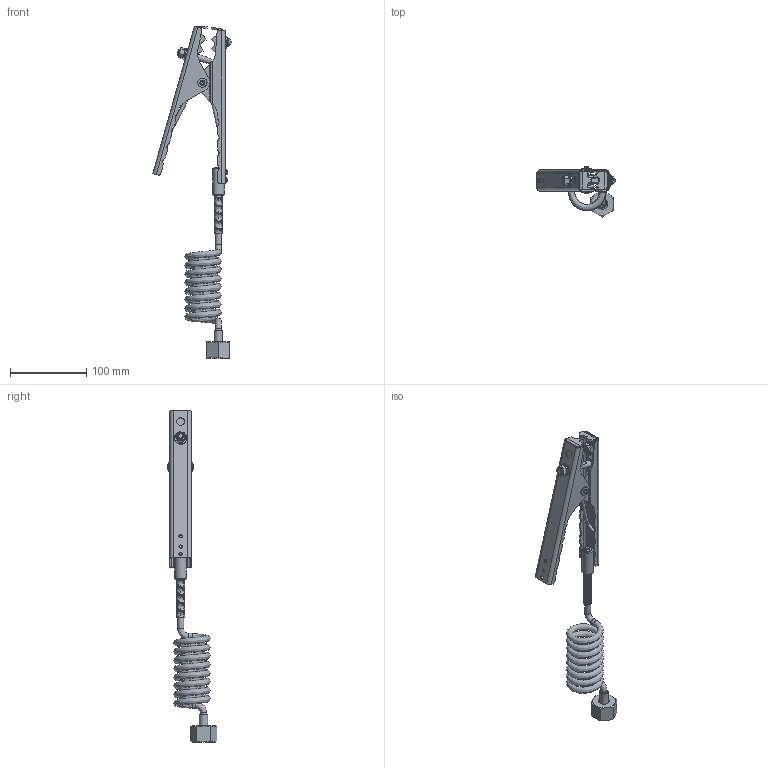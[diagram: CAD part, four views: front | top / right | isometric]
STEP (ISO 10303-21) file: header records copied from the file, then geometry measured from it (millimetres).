
FILE_DESCRIPTION(('STEP AP214'), '1');
FILE_NAME('Ñïèðàëü è ÇÑÒ', '', ('UNSPECIFIED'), ('UNSPECIFIED'), 'ASCON STEP Converter 1.6', 'ASCON Math Kernel', '');
FILE_SCHEMA(('AUTOMOTIVE_DESIGN { 1 0 10303 214 3 1 1}'));
Length unit declared in the file: millimetre
Products named in the file (36): СЕНС.; СЕНС.753713.011-01; СЕНС.753552.002; СЕНС.754140.144; СЕНС.711111.078; СЕНС.745311.001; СЕНС.753713.011; СЕНС.711321.017; СЕНС.305311.006СБ; СЕНС.711361.016; СЕНС.753513.093; СЕНС.716341.001; СЕНС.713341.047; СЕНС.713161.077
Assembly tree (38 placements, depth 4):
  (unnamed)
    (unnamed)
    СЕНС.
      СЕНС.753713.011-01
      (unnamed)
      (unnamed)
      СЕНС.753552.002
      СЕНС.754140.144
      (unnamed)
      (unnamed)  x2
      (unnamed)
      (unnamed)
      (unnamed)
      СЕНС.711111.078
      (unnamed)
      (unnamed)
      (unnamed)
      (unnamed)
      (unnamed)
      (unnamed)
      (unnamed)
      (unnamed)
      СЕНС.745311.001
      (unnamed)
      СЕНС.753713.011
      СЕНС.711321.017
      СЕНС.305311.006СБ
        СЕНС.711361.016
        СЕНС.753513.093
      СЕНС.716341.001
      (unnamed)  x2
      (unnamed)  x2
      (unnamed)
    СЕНС.713341.047
    СЕНС.716341.001
    СЕНС.713161.077
Bounding box: 102.32 x 64.9 x 434.17 mm (x, y, z)
Volume: 122054.1 mm3; surface area: 110399.7 mm2
Topology: 38 solids, 38 shells, 656 faces, 1460 edges, 895 vertices
Faces by surface type: plane 313, cylinder 190, bspline 91, cone 54, torus 5, sphere 3
Full cylindrical faces by diameter (mm): 1.5 x2, 2.5 x2, 3.242 x3, 4 x7, 4.3 x2, 4.5 x10, 4.917 x1, 6 x2, 6.1 x4, 6.2 x1, 6.4 x4, 6.5 x3, 6.6 x2, 6.647 x1, 6.917 x1, 7 x2, 8 x5, 8.2 x2, 8.4 x2, 8.5 x3, 9 x3, 10 x4, 10.3 x2, 10.5 x1, 11 x1, 12 x4, 12.5 x1, 14.5 x1, 15 x1, 16 x3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
Entity records: 1233719 total; most frequent: CARTESIAN_POINT 1218317, DIRECTION 2742, ORIENTED_EDGE 2436, EDGE_CURVE 1218, AXIS2_PLACEMENT_3D 1068, EDGE_LOOP 918, VERTEX_POINT 850, ADVANCED_FACE 639
